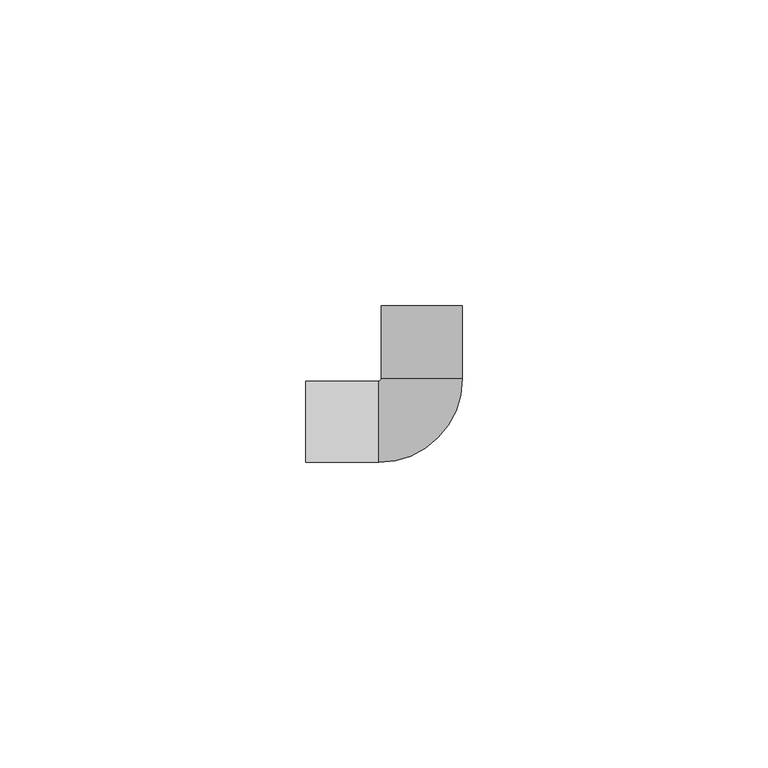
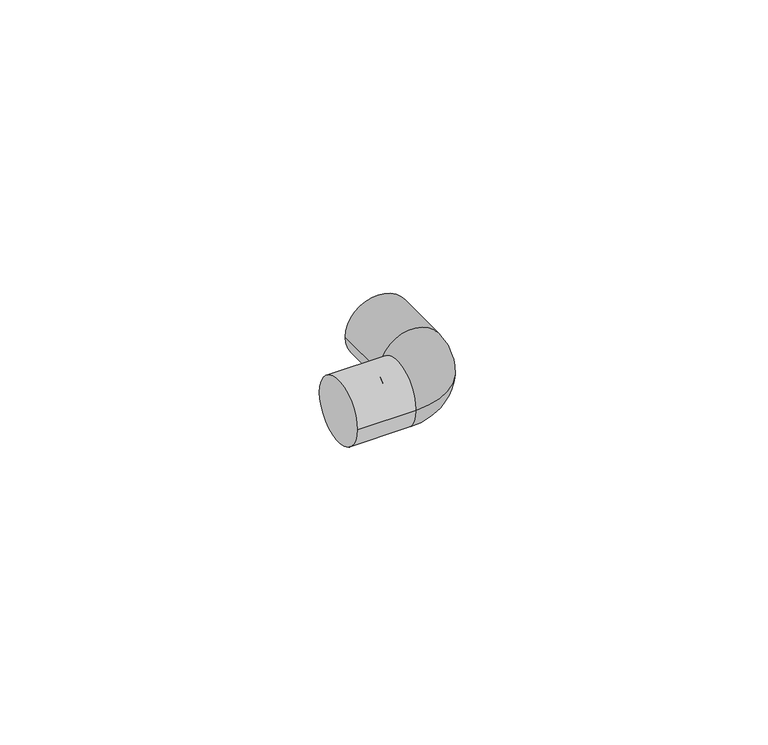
"""IFC4 building model written with IfcOpenShell, lengths in millimetres: pipe fitting geometry, 01051001 : Coudes à 90º."""

from ifc_helpers import new_model, si_unit, point, frame, origin, place, context, project, spatial, circle_curve, ellipse_curve, trimmed, source, transform, mapped, element, save
from ifc_brep_helpers import plane_surface, cylinder_surface, revolved_surface, advanced_brep


def pipe_fitting_49ffd65c(model_context):
    return source(origin(), model_context, "Body", "AdvancedBrep", [
        advanced_brep(
        [(-7.0, -6.65, 0.0), (6.65, 7.0, 0.0), (-6.65, 7.0, 0.0), (-7.0, 6.65, 0.0), (-6.65, 19.0, 0.0), (6.65, 19.0, 0.0), (-19.0, 6.65, 0.0), (-19.0, -6.65, 0.0)],
        [
            (0, 1, circle_curve(frame((-7.0, 7.0, 0.0), z_axis=(0.0, 0.0, 1.0), x_axis=(1.0, 0.0, 0.0)), 13.65)),
            (1, 2, circle_curve(frame((0.0, 7.0, 0.0), z_axis=(0.0, -1.0, 0.0), x_axis=(1.0, 0.0, 0.0)), 6.65)),
            (2, 3, circle_curve(frame((-7.0, 7.0, 0.0), z_axis=(0.0, 0.0, -1.0), x_axis=(1.0, 0.0, 0.0)), 0.35)),
            (3, 0, circle_curve(frame((-7.0, 0.0, 0.0), z_axis=(1.0, 0.0, 0.0), x_axis=(0.0, -1.0, 0.0)), 6.65)),
            (2, 1, circle_curve(frame((0.0, 7.0, 0.0), z_axis=(0.0, -1.0, 0.0), x_axis=(1.0, 0.0, 0.0)), 6.65)),
            (0, 3, circle_curve(frame((-7.0, 0.0, 0.0), z_axis=(1.0, 0.0, 0.0), x_axis=(0.0, -1.0, 0.0)), 6.65)),
            (4, 5, circle_curve(frame((0.0, 19.0, 0.0), z_axis=(0.0, 1.0, 0.0), x_axis=(1.0, 0.0, 0.0)), 6.65)),
            (5, 4, circle_curve(frame((0.0, 19.0, 0.0), z_axis=(0.0, 1.0, 0.0), x_axis=(1.0, 0.0, 0.0)), 6.65)),
            (4, 2),
            (1, 5),
            (6, 7, circle_curve(frame((-19.0, 0.0, 0.0), z_axis=(-1.0, 0.0, 0.0), x_axis=(0.0, -1.0, 0.0)), 6.65)),
            (7, 6, circle_curve(frame((-19.0, 0.0, 0.0), z_axis=(-1.0, 0.0, 0.0), x_axis=(0.0, -1.0, 0.0)), 6.65)),
            (3, 6),
            (7, 0),
        ],
        [
            revolved_surface(trimmed(ellipse_curve(frame((0.0, 7.0, 0.0), z_axis=(0.0, 1.0, 0.0), x_axis=(1.0, 0.0, 0.0)), 6.65, 6.65), [point((-6.65, 7.0, 0.0))], [point((6.65, 7.0, 0.0))], True, "CARTESIAN"), (-7.0, 7.0, 0.0), (0.0, 0.0, -1.0)),
            revolved_surface(trimmed(ellipse_curve(frame((0.0, 7.0, 0.0), z_axis=(0.0, 1.0, 0.0), x_axis=(1.0, 0.0, 0.0)), 6.65, 6.65), [point((6.65, 7.0, 0.0))], [point((-6.65, 7.0, 0.0))], True, "CARTESIAN"), (-7.0, 7.0, 0.0), (0.0, 0.0, -1.0)),
            plane_surface(frame((0.0, 19.0, 0.0), z_axis=(0.0, 1.0, 0.0), x_axis=(0.0, 0.0, 1.0))),
            cylinder_surface(frame((0.0, 19.0, 0.0), z_axis=(0.0, 1.0, 0.0), x_axis=(1.0, 0.0, 0.0)), 6.65),
            plane_surface(frame((-19.0, 0.0, 0.0), z_axis=(-1.0, 0.0, 0.0), x_axis=(0.0, 0.0, 1.0))),
            cylinder_surface(frame((-7.0, 0.0, 0.0), z_axis=(1.0, 0.0, 0.0), x_axis=(0.0, -1.0, 0.0)), 6.65),
        ],
        [
            (0, [[1, 2, 3, 4]]),
            (1, [[-3, 5, -1, 6]]),
            (2, [[7, 8]]),
            (3, [[-7, 9, -2, 10]]),
            (3, [[-8, -10, -5, -9]]),
            (4, [[11, 12]]),
            (5, [[-4, 13, -12, 14]]),
            (5, [[-6, -14, -11, -13]]),
        ],
    ),
    ])


if __name__ == "__main__":
    model = new_model("IFC4")
    model_context = context("Model", 3, world=origin())
    ifc_project = project(units=[si_unit("LENGTHUNIT", "METRE", prefix="MILLI")], contexts=[model_context])
    site = spatial("IfcSite", under=ifc_project)
    building = spatial("IfcBuilding", under=site)
    placement = place(None, origin())
    pipe_fitting_shape = pipe_fitting_49ffd65c(model_context)
    element("IfcPipeFitting", 1, ObjectType="01051001 : Coudes à 90º", at=placement, inside=building, context=model_context, shape_type="MappedRepresentation", body=[
        mapped(pipe_fitting_shape, transform((0.0, 0.0, 0.0), x_axis=(1.0, 0.0, 0.0), y_axis=(0.0, 1.0, 0.0), z_axis=(0.0, 0.0, 1.0))),
    ])
    save(model, "model.ifc")
